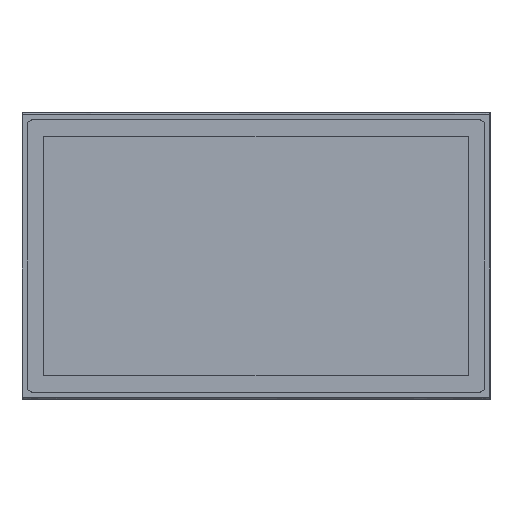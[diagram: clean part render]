
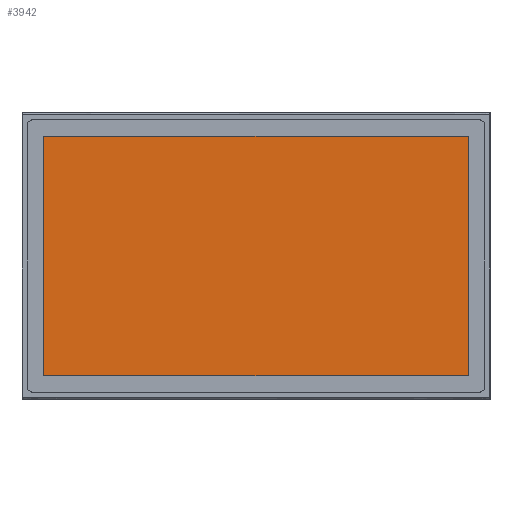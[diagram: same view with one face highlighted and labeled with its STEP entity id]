
A CAD part, top view. The second image highlights one B-rep face of the part: STEP entity #3942.
In plain terms, the highlighted planar face has unit normal (0, 0, 1).
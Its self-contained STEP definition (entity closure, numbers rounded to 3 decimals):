
#3369=DIRECTION('',(-1.,0.,0.));
#3370=VECTOR('',#3369,528.);
#3371=CARTESIAN_POINT('',(264.,148.75,-0.5));
#3372=LINE('',#3371,#3370);
#3373=DIRECTION('',(0.,1.,0.));
#3374=VECTOR('',#3373,297.5);
#3375=CARTESIAN_POINT('',(264.,-148.75,-0.5));
#3376=LINE('',#3375,#3374);
#3377=DIRECTION('',(1.,0.,0.));
#3378=VECTOR('',#3377,528.);
#3379=CARTESIAN_POINT('',(-264.,-148.75,-0.5));
#3380=LINE('',#3379,#3378);
#3381=DIRECTION('',(0.,-1.,0.));
#3382=VECTOR('',#3381,297.5);
#3383=CARTESIAN_POINT('',(-264.,148.75,-0.5));
#3384=LINE('',#3383,#3382);
#3665=CARTESIAN_POINT('',(-264.,148.75,-0.5));
#3666=VERTEX_POINT('',#3665);
#3667=CARTESIAN_POINT('',(264.,148.75,-0.5));
#3668=VERTEX_POINT('',#3667);
#3669=CARTESIAN_POINT('',(264.,-148.75,-0.5));
#3670=VERTEX_POINT('',#3669);
#3671=CARTESIAN_POINT('',(-264.,-148.75,-0.5));
#3672=VERTEX_POINT('',#3671);
#3931=CARTESIAN_POINT('',(0.,0.,-0.5));
#3932=DIRECTION('',(0.,0.,1.));
#3933=DIRECTION('',(1.,0.,0.));
#3934=AXIS2_PLACEMENT_3D('',#3931,#3932,#3933);
#3935=PLANE('',#3934);
#3936=ORIENTED_EDGE('',*,*,#3883,.F.);
#3937=ORIENTED_EDGE('',*,*,#3898,.F.);
#3938=ORIENTED_EDGE('',*,*,#3912,.F.);
#3939=ORIENTED_EDGE('',*,*,#3925,.F.);
#3940=EDGE_LOOP('',(#3936,#3937,#3938,#3939));
#3941=FACE_OUTER_BOUND('',#3940,.F.);
#3942=ADVANCED_FACE('',(#3941),#3935,.T.);
#3883=EDGE_CURVE('',#3668,#3666,#3372,.T.);
#3898=EDGE_CURVE('',#3670,#3668,#3376,.T.);
#3912=EDGE_CURVE('',#3672,#3670,#3380,.T.);
#3925=EDGE_CURVE('',#3666,#3672,#3384,.T.);
